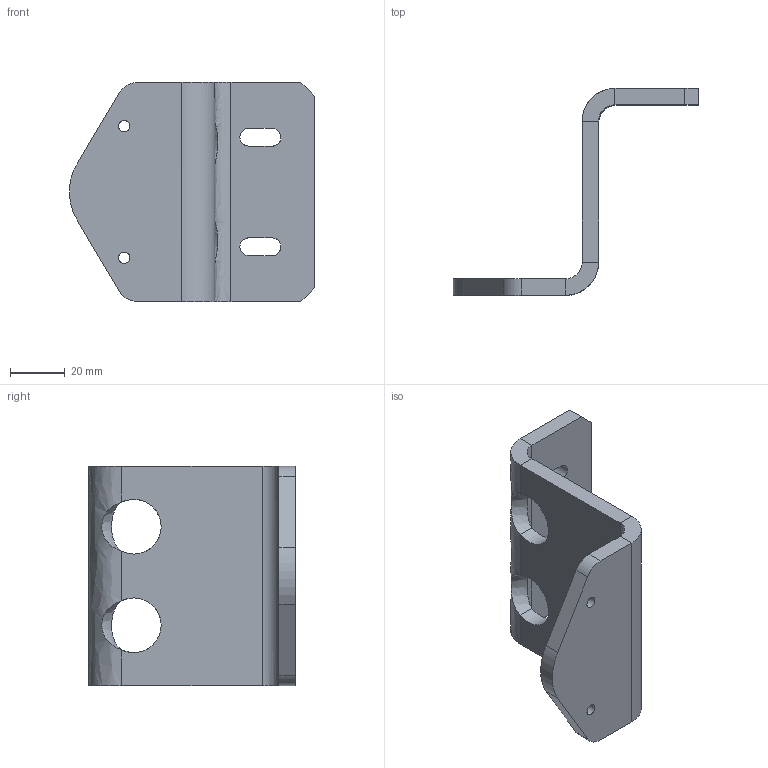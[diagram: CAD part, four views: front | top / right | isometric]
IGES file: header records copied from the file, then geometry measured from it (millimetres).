
Global section: file name: H305058_Winkel_Schwenktüre_70,; native system: Autodesk Inventor 2020; preprocessor: unknown; author: mmussato; date: 20191216.110843; units: millimetre
Bounding box: 89.47 x 75.45 x 80 mm (x, y, z)
Volume: 63091.4 mm3; surface area: 24943.1 mm2
Topology: 1 solids, 1 shells, 42 faces, 116 edges, 72 vertices
Faces by surface type: bspline 42
